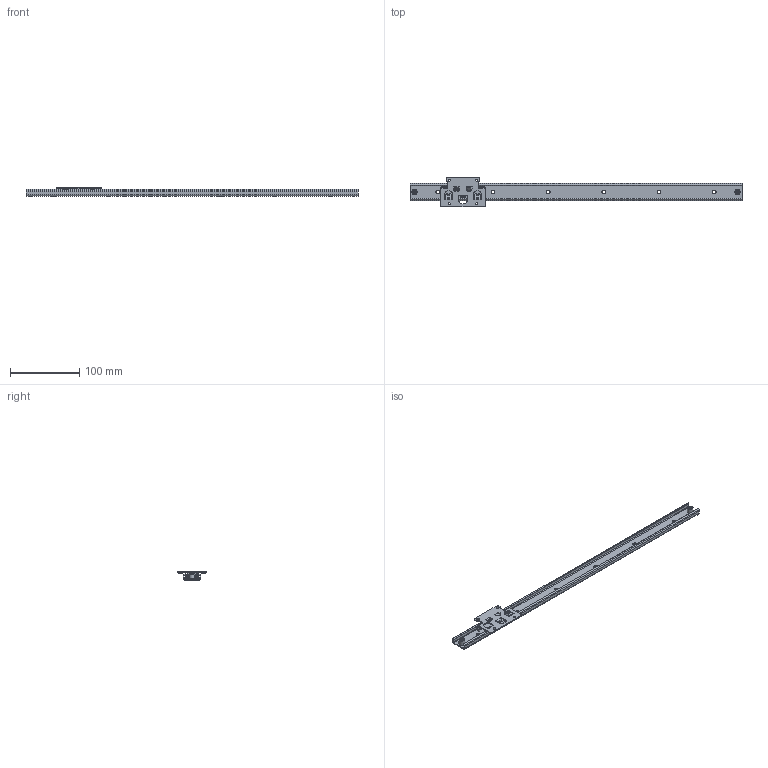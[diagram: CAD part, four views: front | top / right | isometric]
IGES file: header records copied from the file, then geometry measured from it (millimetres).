
Global section: file name:  ; native system: Kubotek KeyCreator; preprocessor: KCM Version 1.1.28; author: KeyCreator•p{ž; organization: Self; date: 20160805.054616; units: millimetre
Bounding box: 480 x 42 x 12 mm (x, y, z)
Surface area: 47534.8 mm2 (no closed solid volume)
Topology: 0 solids, 0 shells, 430 faces, 1992 edges, 1841 vertices
Faces by surface type: revolution 244, plane 186
